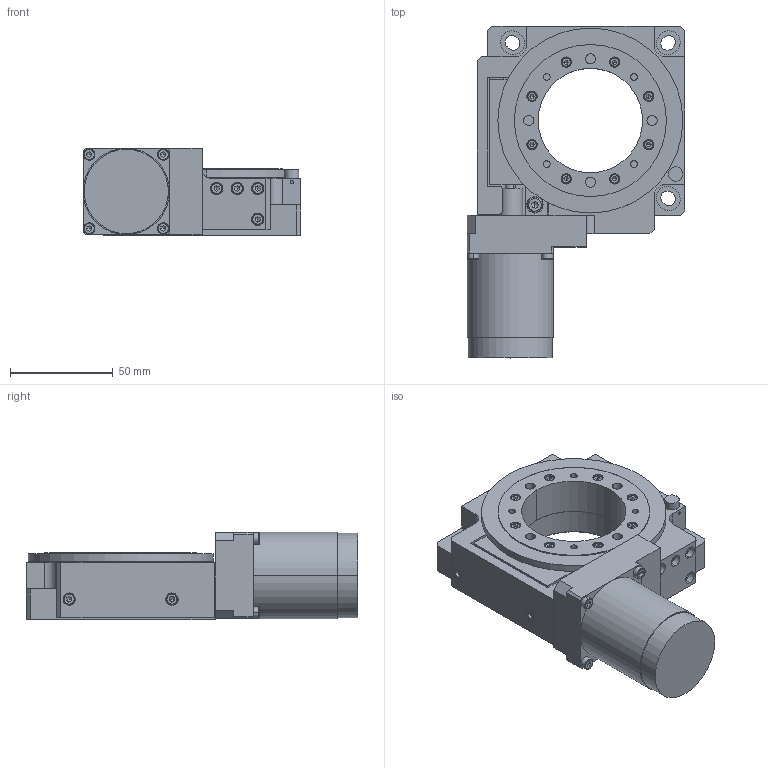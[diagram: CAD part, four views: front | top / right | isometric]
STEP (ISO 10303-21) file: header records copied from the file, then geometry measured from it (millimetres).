
FILE_DESCRIPTION (( 'STEP AP203' ), '1' );
FILE_NAME ('8MR190V-2-VSS42.STEP', '2011-06-16T12:26:59', ( 'Darius' ), ( '' ), 'SwSTEP 2.0', 'SolidWorks 2003240', '' );
FILE_SCHEMA (( 'CONFIG_CONTROL_DESIGN' ));
Length unit declared in the file: millimetre
Products named in the file (1): 8MR190V-2-VSS42
Bounding box: 106 x 161.5 x 42.5 mm (x, y, z)
Volume: 310384.8 mm3; surface area: 68256.7 mm2
Topology: 1 solids, 27 shells, 1036 faces, 2610 edges, 1704 vertices
Faces by surface type: plane 471, cylinder 313, bspline 180, cone 72
Entity records: 35319 total; most frequent: CARTESIAN_POINT 11453, ORIENTED_EDGE 5124, DIRECTION 4486, EDGE_CURVE 2562, VERTEX_POINT 1704, AXIS2_PLACEMENT_3D 1603, VECTOR 1280, LINE 1280
